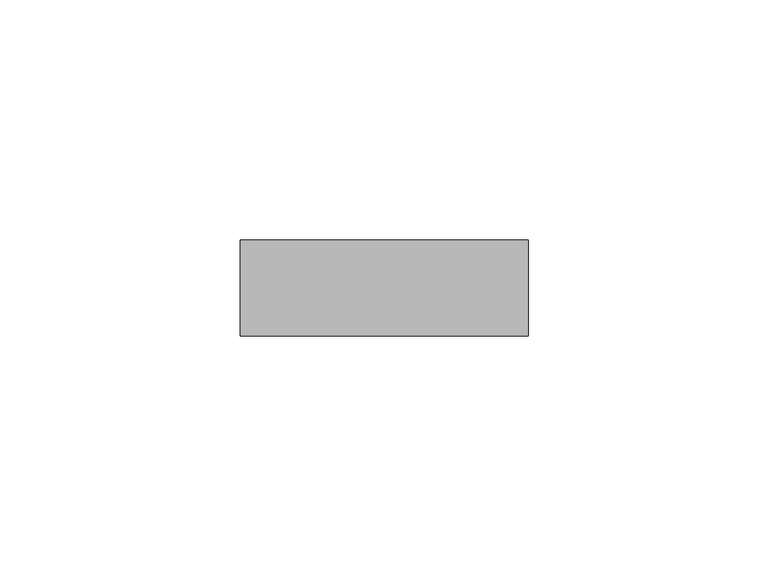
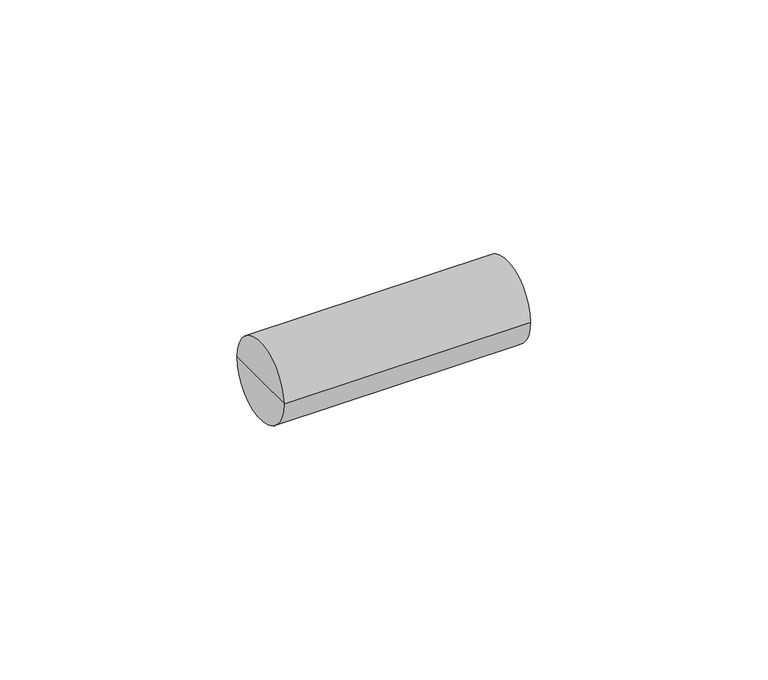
"""IFC4 building model written with IfcOpenShell, lengths in millimetres: cable carrier fitting geometry, Муфта для гофрированных труб, прозрачная GFLEX D ИЭК : CTA10D-GFLEX16-K08-100."""

from ifc_helpers import new_model, si_unit, frame, origin, place, context, project, spatial, circle_curve, source, transform, mapped, element, save
from ifc_brep_helpers import plane_surface, cylinder_surface, advanced_brep


def cable_carrier_fitting_0a225d73(model_context):
    return source(origin(), model_context, "Body", "AdvancedBrep", [
        advanced_brep(
        [(-30.0, -10.0, 0.0), (-30.0, 10.0, 0.0), (30.0, 10.0, 0.0), (30.0, -10.0, 0.0), (-30.0, 0.0, 0.0), (30.0, 0.0, 0.0)],
        [
            (0, 1, circle_curve(frame((-30.0, 0.0, 0.0), z_axis=(1.0, 0.0, 0.0), x_axis=(0.0, 1.0, 0.0)), 10.0)),
            (1, 2),
            (2, 3, circle_curve(frame((30.0, 0.0, 0.0), z_axis=(-1.0, 0.0, 0.0), x_axis=(0.0, 1.0, 0.0)), 10.0)),
            (3, 0),
            (1, 0, circle_curve(frame((-30.0, 0.0, 0.0), z_axis=(1.0, 0.0, 0.0), x_axis=(0.0, 1.0, 0.0)), 10.0)),
            (3, 2, circle_curve(frame((30.0, 0.0, 0.0), z_axis=(-1.0, 0.0, 0.0), x_axis=(0.0, 1.0, 0.0)), 10.0)),
            (4, 1),
            (0, 4),
            (2, 5),
            (5, 3),
        ],
        [
            cylinder_surface(frame((1955.0, 0.0, 0.0), z_axis=(-1.0, 0.0, 0.0), x_axis=(0.0, 1.0, 0.0)), 10.0),
            plane_surface(frame((-30.0, 0.0, 0.0), z_axis=(-1.0, 0.0, 0.0), x_axis=(0.0, 1.0, 0.0))),
            plane_surface(frame((30.0, 0.0, 0.0), z_axis=(1.0, 0.0, 0.0), x_axis=(0.0, 1.0, 0.0))),
        ],
        [
            (0, [[1, 2, 3, 4]]),
            (0, [[5, -4, 6, -2]]),
            (1, [[7, -1, 8]]),
            (1, [[-8, -5, -7]]),
            (2, [[-3, 9, 10]]),
            (2, [[-6, -10, -9]]),
        ],
    ),
    ])


if __name__ == "__main__":
    model = new_model("IFC4")
    model_context = context("Model", 3, world=origin())
    ifc_project = project(units=[si_unit("LENGTHUNIT", "METRE", prefix="MILLI")], contexts=[model_context])
    site = spatial("IfcSite", under=ifc_project)
    building = spatial("IfcBuilding", under=site)
    placement = place(None, origin())
    cable_carrier_fitting_shape = cable_carrier_fitting_0a225d73(model_context)
    element("IfcCableCarrierFitting", 1, ObjectType="Муфта для гофрированных труб, прозрачная GFLEX D ИЭК : CTA10D-GFLEX16-K08-100", at=placement, inside=building, context=model_context, shape_type="MappedRepresentation", body=[
        mapped(cable_carrier_fitting_shape, transform((0.0, 0.0, 0.0), x_axis=(1.0, 0.0, 0.0), y_axis=(0.0, 1.0, 0.0), z_axis=(0.0, 0.0, 1.0))),
    ])
    save(model, "model.ifc")
